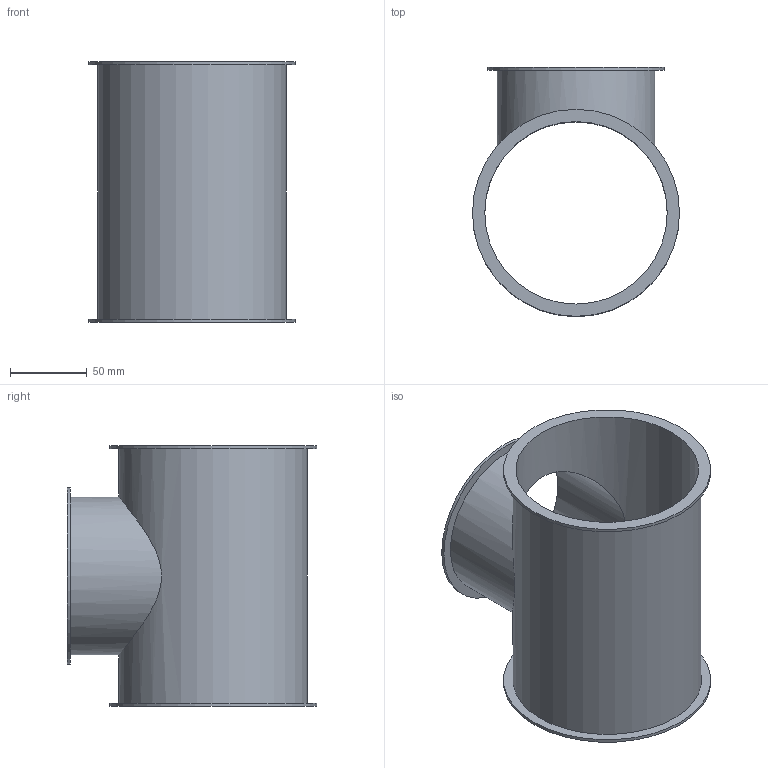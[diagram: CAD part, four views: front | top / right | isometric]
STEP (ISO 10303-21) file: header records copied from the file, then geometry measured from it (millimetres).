
FILE_DESCRIPTION((''),'2;1');
FILE_NAME('U:\Wolfgang\Marcel-3D\fertig\Kapitel 4\1221039.stp','2011-04-21T08:26:24',('TK1'),(''),'Autodesk Inventor 2010','Autodesk Inventor 2010','');
FILE_SCHEMA(('AUTOMOTIVE_DESIGN { 1 0 10303 214 1 1 1 1 }'));
Length unit declared in the file: millimetre
Products named in the file (1): 1221039
Bounding box: 135 x 162.5 x 170 mm (x, y, z)
Volume: 154646.5 mm3; surface area: 157321 mm2
Topology: 1 solids, 1 shells, 13 faces, 23 edges, 16 vertices
Faces by surface type: cylinder 7, plane 6
Full cylindrical faces by diameter (mm): 99 x1, 103 x1, 115 x1, 119 x1, 123 x1, 135 x2
Entity records: 432 total; most frequent: CARTESIAN_POINT 172, DIRECTION 52, ORIENTED_EDGE 28, EDGE_LOOP 28, AXIS2_PLACEMENT_3D 26, FACE_BOUND 15, VERTEX_POINT 14, EDGE_CURVE 14
